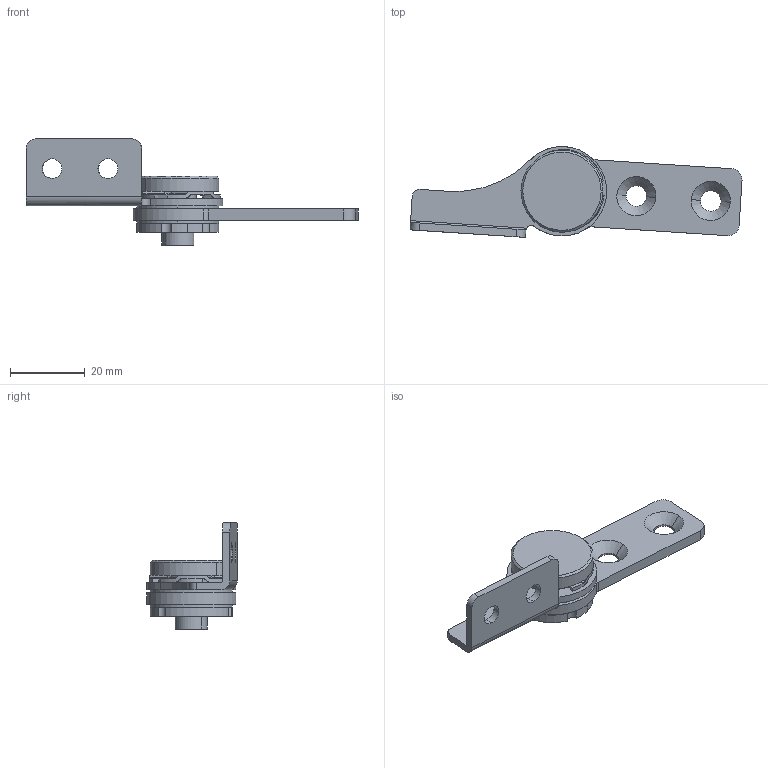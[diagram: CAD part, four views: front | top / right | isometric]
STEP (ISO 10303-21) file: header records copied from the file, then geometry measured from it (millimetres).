
FILE_DESCRIPTION (( 'STEP AP203' ), '1' );
FILE_NAME ('3SJ.CL334-Y.0001.STEP', '2019-04-16T02:46:07', ( 'Win7' ), ( 'Microsoft' ), 'SwSTEP 2.0', 'SolidWorks 2016', '' );
FILE_SCHEMA (( 'CONFIG_CONTROL_DESIGN' ));
Length unit declared in the file: millimetre
Products named in the file (8): CL334菜え1; CL334嘐隅菜え; 3SJ.CL334-Y.0001; CL334蛌粣; CL334粟銅え; CL334隅蝓蟈衵; CL334菜え2; CL334雄蝓蟈
Assembly tree (7 placements, depth 2):
  3SJ.CL334-Y.0001
    CL334蛌粣
    CL334粟銅え
    CL334隅蝓蟈衵
    CL334菜え2
    CL334雄蝓蟈
    CL334菜え1
    CL334嘐隅菜え
Bounding box: 89.05 x 24.38 x 28.5 mm (x, y, z)
Volume: 8968.6 mm3; surface area: 9979.1 mm2
Topology: 7 solids, 7 shells, 245 faces, 663 edges, 433 vertices
Faces by surface type: cylinder 151, plane 49, bspline 25, torus 12, cone 8
Entity records: 13754 total; most frequent: CARTESIAN_POINT 6871, ORIENTED_EDGE 1322, DIRECTION 1232, EDGE_CURVE 661, AXIS2_PLACEMENT_3D 488, VERTEX_POINT 433, EDGE_LOOP 292, CIRCLE 258
